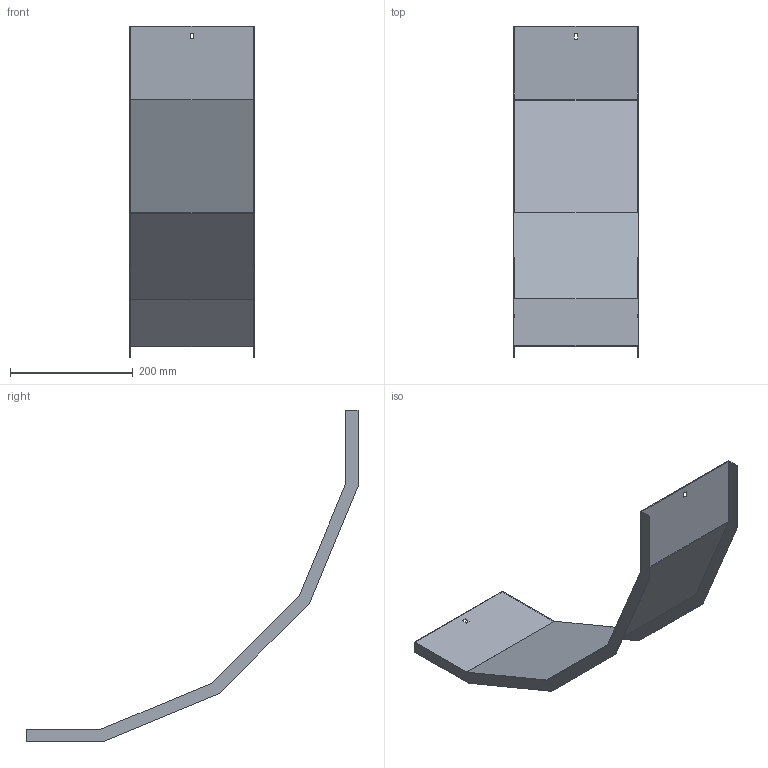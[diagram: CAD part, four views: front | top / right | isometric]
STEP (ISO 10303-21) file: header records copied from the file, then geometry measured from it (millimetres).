
FILE_DESCRIPTION (( 'STEP AP214' ), '1' );
FILE_NAME ('30N5R200_H150.step', '2025-02-21T14:29:30', ( '' ), ( '' ), 'SwSTEP 2.0', 'SolidWorks 2023', '' );
FILE_SCHEMA (( 'AUTOMOTIVE_DESIGN' ));
Length unit declared in the file: millimetre
Products named in the file (1): 30N5R200_H150
Bounding box: 203 x 540.72 x 540.72 mm (x, y, z)
Volume: 302457.3 mm3; surface area: 406692.3 mm2
Topology: 1 solids, 1 shells, 34 faces, 96 edges, 64 vertices
Faces by surface type: plane 34
Entity records: 1111 total; most frequent: CARTESIAN_POINT 195, ORIENTED_EDGE 192, DIRECTION 166, EDGE_CURVE 96, LINE 96, VECTOR 96, VERTEX_POINT 64, EDGE_LOOP 38
